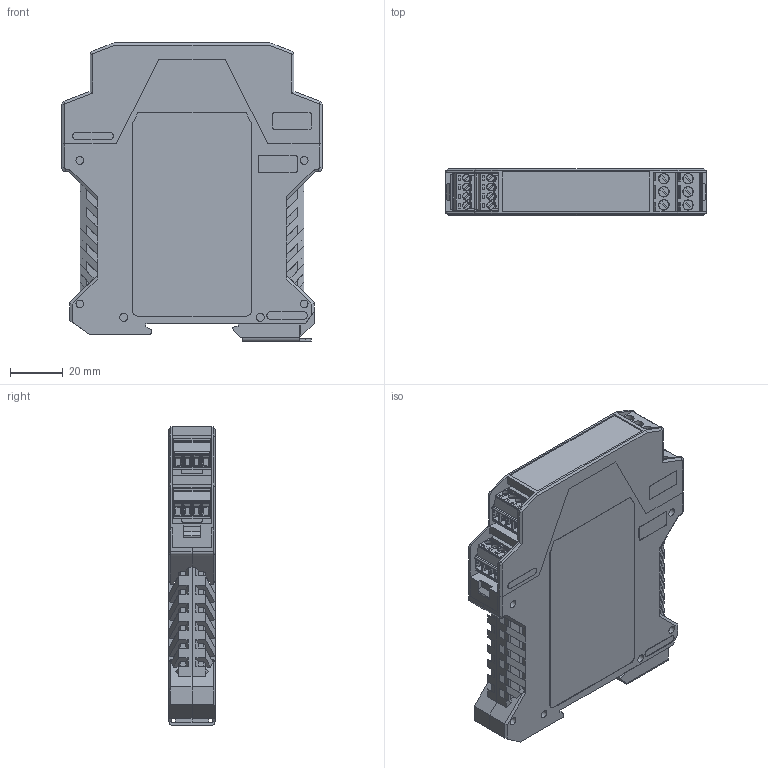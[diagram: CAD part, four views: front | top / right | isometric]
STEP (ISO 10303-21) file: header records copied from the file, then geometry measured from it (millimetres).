
FILE_DESCRIPTION(('STEP AP242'), '1');
FILE_NAME('PhoenixContact_1', '2026-03-04T13:08:30', ('砐錪賧瘔蠈錪 Windows'), (''), 'C3D Converter', 'C3D Toolkit', '');
FILE_SCHEMA(('AP242_MANAGED_MODEL_BASED_3D_ENGINEERING_MIM_LF { 1 0 10303 442 1 1 4 }'));
Length unit declared in the file: millimetre
Products named in the file (27): 2026_03_04_12_48_35_0087; 2026_03_04_12_48_35_0524; 2026_03_04_12_48_35_0493; 2026_03_04_12_48_35_0462; 2026_03_04_12_48_35_0446; 2026_03_04_12_48_35_0431; 2026_03_04_12_48_35_0415; 2026_03_04_12_48_35_0384; 2026_03_04_12_48_35_0368; 2026_03_04_12_48_35_0353; 2026_03_04_12_48_35_0337; 2026_03_04_12_48_35_0321; MSTBT_2.5-3-ST; 1
Assembly tree (28 placements, depth 3):
  2026_03_04_12_48_35_0087
    2026_03_04_12_48_35_0524
    2026_03_04_12_48_35_0493
    2026_03_04_12_48_35_0462
    2026_03_04_12_48_35_0446
    2026_03_04_12_48_35_0431
    2026_03_04_12_48_35_0415
    2026_03_04_12_48_35_0384
    2026_03_04_12_48_35_0368
    2026_03_04_12_48_35_0353
    2026_03_04_12_48_35_0337
    2026_03_04_12_48_35_0321
    MSTBT_2.5-3-ST  x2
    (unnamed)  x2
      1
      1
      1
      1
      1
      1
      1
      1
      1
      1
      1
      1
      1
Bounding box: 99 x 17.6 x 113.6 mm (x, y, z)
Volume: 65185.9 mm3; surface area: 86330 mm2
Topology: 39 solids, 39 shells, 4834 faces, 13392 edges, 8817 vertices
Faces by surface type: plane 3862, cylinder 812, extrusion 74, cone 44, torus 26, bspline 16
Full cylindrical faces by diameter (mm): 0.296 x2, 1.18 x8, 1.2 x34, 1.4 x18, 1.6 x8, 2 x22, 2.15 x6, 2.8 x20, 2.9 x6, 3 x12, 3.783 x6, 4 x6
Entity records: 143850 total; most frequent: CARTESIAN_POINT 26134, ORIENTED_EDGE 19116, DIRECTION 17083, EDGE_CURVE 9558, VECTOR 7983, LINE 7946, VERTEX_POINT 6360, AXIS2_PLACEMENT_3D 4550
